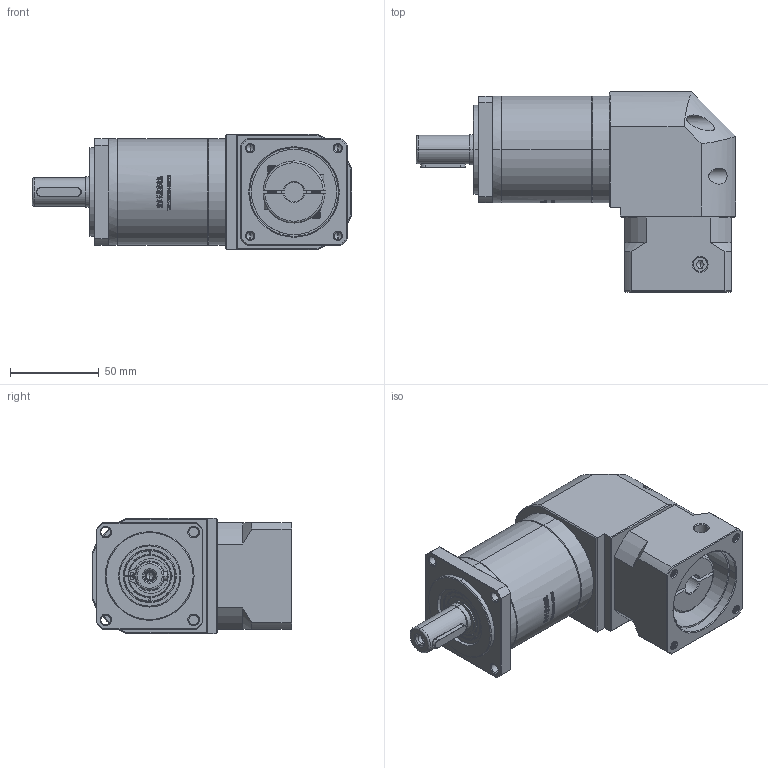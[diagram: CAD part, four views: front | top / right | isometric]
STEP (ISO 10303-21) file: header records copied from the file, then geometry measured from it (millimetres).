
FILE_DESCRIPTION (( 'STEP AP214' ), '1' );
FILE_NAME ('ZFR60-D16-L2-11-50-70-M5.STEP', '2022-04-20T08:50:53', ( '' ), ( 'Microsoft' ), 'SwSTEP 2.0', 'SolidWorks 2016', '' );
FILE_SCHEMA (( 'AUTOMOTIVE_DESIGN' ));
Length unit declared in the file: millimetre
Products named in the file (1): ZFR60-D16-L2-11-50-70-M5
Bounding box: 180 x 112.7 x 65 mm (x, y, z)
Volume: 587901.9 mm3; surface area: 82364.1 mm2
Topology: 5 solids, 6 shells, 2692 faces, 7344 edges, 4789 vertices
Faces by surface type: plane 1397, bspline 579, cylinder 402, cone 290, torus 24
Entity records: 149176 total; most frequent: CARTESIAN_POINT 57029, ORIENTED_EDGE 14644, DIRECTION 10546, EDGE_CURVE 7322, VERTEX_POINT 4789, VECTOR 4400, LINE 4400, AXIS2_PLACEMENT_3D 3073
